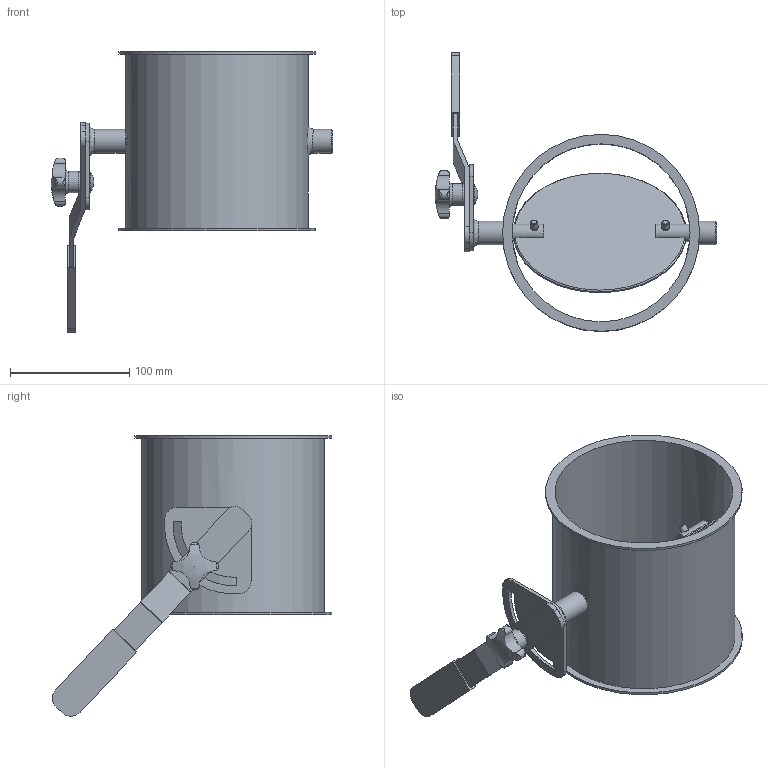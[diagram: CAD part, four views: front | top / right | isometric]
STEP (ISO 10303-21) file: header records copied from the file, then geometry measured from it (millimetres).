
FILE_DESCRIPTION((''),'2;1');
FILE_NAME('U:\Wolfgang\Marcel-3D\fertig\Kapitel 8\1521075.stp','2011-05-03T15:03:25',('TK1'),(''),'Autodesk Inventor 2010','Autodesk Inventor 2010','');
FILE_SCHEMA(('AUTOMOTIVE_DESIGN { 1 0 10303 214 1 1 1 1 }'));
Length unit declared in the file: millimetre
Products named in the file (9): 1521075; Bolzen D15; Griff D15; Umstellsegment D15; DIN 6912 M6 x 16; ganter_din_6335-ku-40-m8-k; Scheibe150; DIN 603 M6 x 25; 1521075-1
Assembly tree (9 placements, depth 2):
  1521075
    Bolzen D15
    Griff D15
    Umstellsegment D15
    DIN 6912 M6 x 16  x2
    ganter_din_6335-ku-40-m8-k
    Scheibe150
    DIN 603 M6 x 25
    1521075-1
Bounding box: 236 x 234 x 234.95 mm (x, y, z)
Volume: 282435.1 mm3; surface area: 229879.3 mm2
Topology: 9 solids, 9 shells, 164 faces, 399 edges, 264 vertices
Faces by surface type: plane 75, cylinder 54, cone 16, torus 9, bspline 8, sphere 2
Full cylindrical faces by diameter (mm): 3 x2, 6 x7, 6.4 x1, 7 x1, 10 x4, 13 x1, 14 x2, 15 x4, 16.55 x1, 18 x1, 20 x3, 145 x1, 149 x1, 153 x1, 165 x2
Entity records: 5311 total; most frequent: CARTESIAN_POINT 1830, DIRECTION 686, ORIENTED_EDGE 592, EDGE_CURVE 296, AXIS2_PLACEMENT_3D 290, EDGE_LOOP 229, VERTEX_POINT 221, FACE_OUTER_BOUND 149
